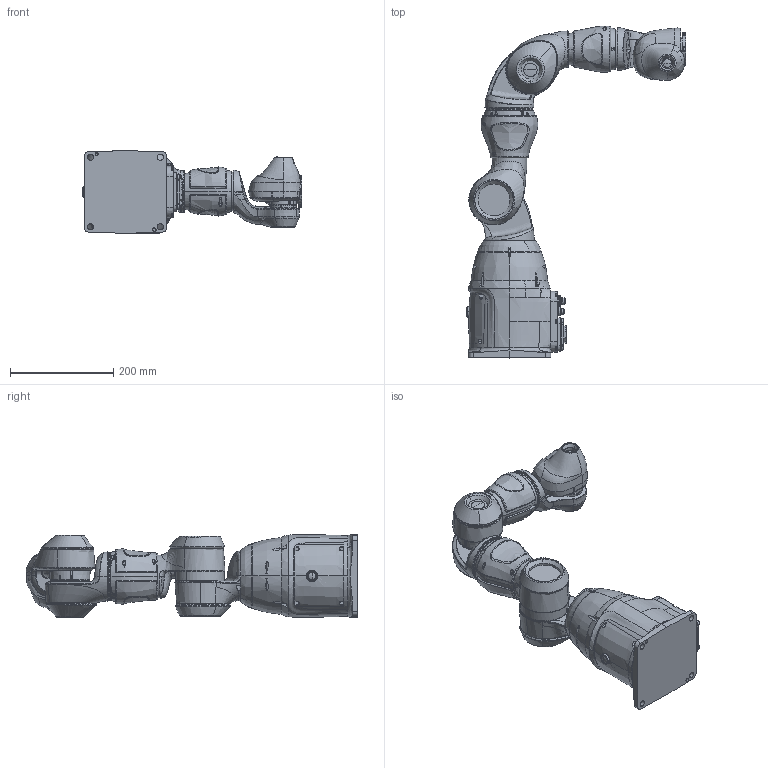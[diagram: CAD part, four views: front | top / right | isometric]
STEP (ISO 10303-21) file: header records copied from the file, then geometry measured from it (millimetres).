
FILE_DESCRIPTION (( 'STEP AP214' ), '1' );
FILE_NAME ('SAYumi apperance model.STEP', '2018-06-26T09:24:32', ( 'ABB' ), ( 'ABB' ), 'SwSTEP 2.0', 'SolidWorks 2016', '' );
FILE_SCHEMA (( 'AUTOMOTIVE_DESIGN' ));
Length unit declared in the file: millimetre
Products named in the file (17): Link2_R; Link1_R; SAYumi apperance model; base; Link7_R; Link6_R; Link5_R; Link4_R; Link3_R
Assembly tree (8 placements, depth 2):
  Link2_R
  Link1_R
  SAYumi apperance model
    Link1_R
    Link2_R
    Link3_R
    Link4_R
    Link5_R
    Link6_R
    Link7_R
    base
  base
  Link7_R
Bounding box: 425.38 x 642.85 x 160.1 mm (x, y, z)
Volume: 9274630.1 mm3; surface area: 645073.9 mm2
Topology: 10 solids, 10 shells, 4443 faces, 11668 edges, 7359 vertices
Faces by surface type: bspline 1821, plane 1493, cylinder 689, cone 319, torus 107, sphere 14
Entity records: 513027 total; most frequent: CARTESIAN_POINT 384408, ORIENTED_EDGE 23198, DIRECTION 13685, EDGE_CURVE 11599, VERTEX_POINT 7359, B_SPLINE_CURVE_WITH_KNOTS 4804, AXIS2_PLACEMENT_3D 4744, EDGE_LOOP 4664
